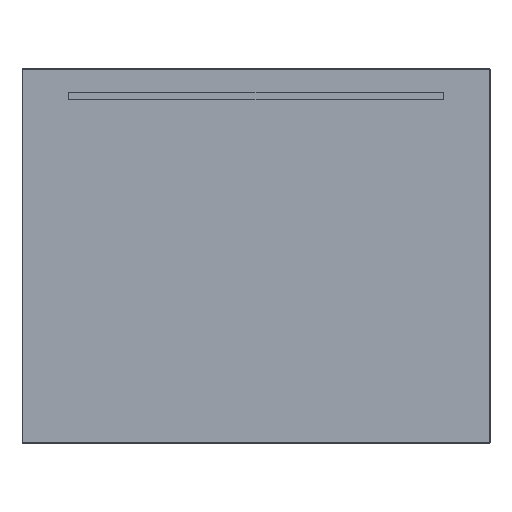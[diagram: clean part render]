
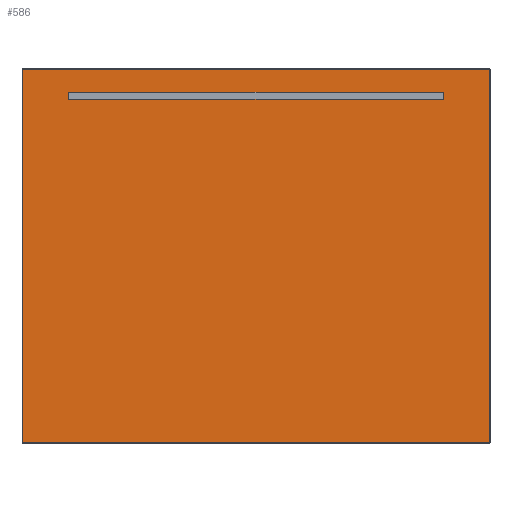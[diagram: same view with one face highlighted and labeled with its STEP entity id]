
A CAD part, top view. The second image highlights one B-rep face of the part: STEP entity #586.
In plain terms, the highlighted planar face has unit normal (0, 0, 1).
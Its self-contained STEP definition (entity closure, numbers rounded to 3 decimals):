
#20 = DIRECTION ( 'NONE',  ( 0., 1., 0. ) ) ;
#66 = CARTESIAN_POINT ( 'NONE',  ( -400., 350., 4. ) ) ;
#71 = EDGE_CURVE ( 'NONE', #1892, #628, #836, .T. ) ;
#108 = LINE ( 'NONE', #774, #134 ) ;
#120 = PLANE ( 'NONE',  #1242 ) ;
#133 = CARTESIAN_POINT ( 'NONE',  ( 499.5, 399.5, 4. ) ) ;
#134 = VECTOR ( 'NONE', #467, 1000. ) ;
#141 = CARTESIAN_POINT ( 'NONE',  ( -499.5, -399.5, 4. ) ) ;
#153 = ORIENTED_EDGE ( 'NONE', *, *, #1065, .F. ) ;
#171 = ORIENTED_EDGE ( 'NONE', *, *, #365, .F. ) ;
#198 = VECTOR ( 'NONE', #241, 1000. ) ;
#202 = EDGE_CURVE ( 'NONE', #943, #650, #1031, .T. ) ;
#229 = CARTESIAN_POINT ( 'NONE',  ( 499.5, 0., 4. ) ) ;
#233 = VECTOR ( 'NONE', #509, 1000. ) ;
#241 = DIRECTION ( 'NONE',  ( 0., 1., 0. ) ) ;
#260 = CARTESIAN_POINT ( 'NONE',  ( -400., 350., 4. ) ) ;
#365 = EDGE_CURVE ( 'NONE', #650, #807, #1294, .T. ) ;
#373 = VERTEX_POINT ( 'NONE', #769 ) ;
#418 = EDGE_LOOP ( 'NONE', ( #171, #1540, #987, #153 ) ) ;
#431 = CARTESIAN_POINT ( 'NONE',  ( 0., -399.5, 4. ) ) ;
#461 = EDGE_CURVE ( 'NONE', #628, #373, #1237, .T. ) ;
#467 = DIRECTION ( 'NONE',  ( -1., 0., 0. ) ) ;
#507 = VECTOR ( 'NONE', #20, 1000. ) ;
#509 = DIRECTION ( 'NONE',  ( 0., -1., 0. ) ) ;
#515 = CARTESIAN_POINT ( 'NONE',  ( -499.5, 399.5, 4. ) ) ;
#520 = CARTESIAN_POINT ( 'NONE',  ( -400., 335., 4. ) ) ;
#586 = ADVANCED_FACE ( 'NONE', ( #1827, #1359 ), #120, .F. ) ;
#597 = ORIENTED_EDGE ( 'NONE', *, *, #1486, .T. ) ;
#628 = VERTEX_POINT ( 'NONE', #141 ) ;
#643 = DIRECTION ( 'NONE',  ( 0., -1., 0. ) ) ;
#650 = VERTEX_POINT ( 'NONE', #520 ) ;
#652 = ORIENTED_EDGE ( 'NONE', *, *, #461, .T. ) ;
#719 = CARTESIAN_POINT ( 'NONE',  ( 0., 0., 4. ) ) ;
#734 = LINE ( 'NONE', #901, #507 ) ;
#748 = VECTOR ( 'NONE', #643, 1000. ) ;
#752 = EDGE_CURVE ( 'NONE', #373, #1201, #1897, .T. ) ;
#758 = CARTESIAN_POINT ( 'NONE',  ( -400., 335., 4. ) ) ;
#769 = CARTESIAN_POINT ( 'NONE',  ( 499.5, -399.5, 4. ) ) ;
#774 = CARTESIAN_POINT ( 'NONE',  ( -400., 350., 4. ) ) ;
#797 = EDGE_LOOP ( 'NONE', ( #909, #597, #1071, #652 ) ) ;
#807 = VERTEX_POINT ( 'NONE', #1132 ) ;
#836 = LINE ( 'NONE', #1516, #748 ) ;
#901 = CARTESIAN_POINT ( 'NONE',  ( 400., 350., 4. ) ) ;
#909 = ORIENTED_EDGE ( 'NONE', *, *, #752, .T. ) ;
#943 = VERTEX_POINT ( 'NONE', #260 ) ;
#987 = ORIENTED_EDGE ( 'NONE', *, *, #1082, .F. ) ;
#990 = VECTOR ( 'NONE', #1509, 1000. ) ;
#1031 = LINE ( 'NONE', #66, #233 ) ;
#1033 = VECTOR ( 'NONE', #1133, 1000. ) ;
#1065 = EDGE_CURVE ( 'NONE', #807, #1628, #734, .T. ) ;
#1071 = ORIENTED_EDGE ( 'NONE', *, *, #71, .T. ) ;
#1082 = EDGE_CURVE ( 'NONE', #1628, #943, #108, .T. ) ;
#1117 = DIRECTION ( 'NONE',  ( 0., 0., -1. ) ) ;
#1132 = CARTESIAN_POINT ( 'NONE',  ( 400., 335., 4. ) ) ;
#1133 = DIRECTION ( 'NONE',  ( -1., 0., 0. ) ) ;
#1178 = CARTESIAN_POINT ( 'NONE',  ( 400., 350., 4. ) ) ;
#1201 = VERTEX_POINT ( 'NONE', #133 ) ;
#1237 = LINE ( 'NONE', #431, #1774 ) ;
#1242 = AXIS2_PLACEMENT_3D ( 'NONE', #719, #1117, #1279 ) ;
#1279 = DIRECTION ( 'NONE',  ( -1., 0., 0. ) ) ;
#1294 = LINE ( 'NONE', #758, #990 ) ;
#1359 = FACE_OUTER_BOUND ( 'NONE', #797, .T. ) ;
#1486 = EDGE_CURVE ( 'NONE', #1201, #1892, #1822, .T. ) ;
#1509 = DIRECTION ( 'NONE',  ( 1., 0., 0. ) ) ;
#1516 = CARTESIAN_POINT ( 'NONE',  ( -499.5, 0., 4. ) ) ;
#1540 = ORIENTED_EDGE ( 'NONE', *, *, #202, .F. ) ;
#1628 = VERTEX_POINT ( 'NONE', #1178 ) ;
#1662 = DIRECTION ( 'NONE',  ( 1., 0., 0. ) ) ;
#1774 = VECTOR ( 'NONE', #1662, 1000. ) ;
#1822 = LINE ( 'NONE', #1870, #1033 ) ;
#1827 = FACE_BOUND ( 'NONE', #418, .T. ) ;
#1870 = CARTESIAN_POINT ( 'NONE',  ( 0., 399.5, 4. ) ) ;
#1892 = VERTEX_POINT ( 'NONE', #515 ) ;
#1897 = LINE ( 'NONE', #229, #198 ) ;
